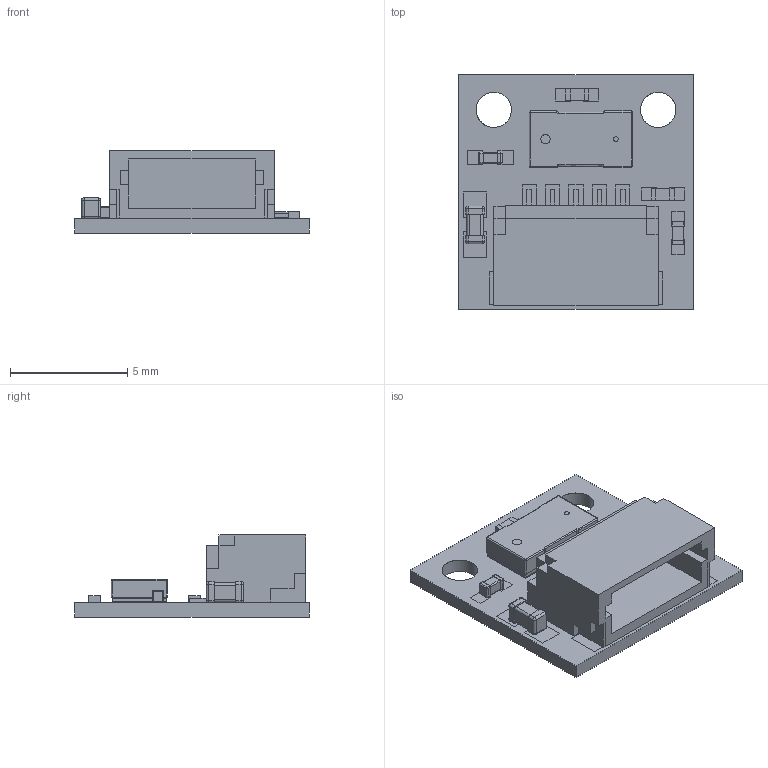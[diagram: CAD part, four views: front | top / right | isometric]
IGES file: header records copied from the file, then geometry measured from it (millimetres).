
Global section: file name: Filename.iges; native system: Open CASCADE 7.4; preprocessor: Open CASCADE IGES processor 7.4; date: 20200730.113432; units: millimetre
Bounding box: 10 x 10 x 3.5 mm (x, y, z)
Surface area: 935.5 mm2 (no closed solid volume)
Topology: 0 solids, 0 shells, 780 faces, 3948 edges, 5244 vertices
Faces by surface type: plane 632, revolution 148
